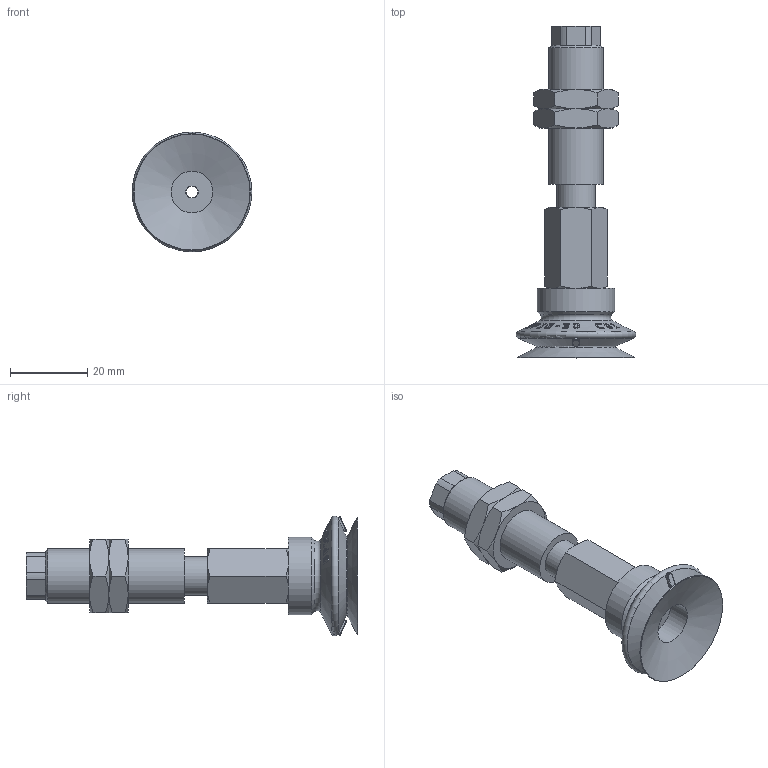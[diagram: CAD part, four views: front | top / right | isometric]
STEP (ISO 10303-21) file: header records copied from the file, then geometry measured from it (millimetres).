
FILE_DESCRIPTION(('STEP AP214'),'1');
FILE_NAME('.stp','2026-01-21T05:02:21',(' '),(' '),'Spatial InterOp 3D',' ',' ');
FILE_SCHEMA(('AUTOMOTIVE_DESIGN { 1 0 10303 214 1 1 1 1 }'));
Length unit declared in the file: millimetre
Products named in the file (7): BNABPJTS-30-6-※; Adapter-30-NAPJ; NUT-NAPJ-30-6-s; NAPJTS-30-6-FBODY; BPJG-30-※; NAPJTS-30-6-MBODY; ADAPTER
Assembly tree (7 placements, depth 2):
  BNABPJTS-30-6-※
    Adapter-30-NAPJ
    NUT-NAPJ-30-6-s  x2
    NAPJTS-30-6-FBODY
    BPJG-30-※
    NAPJTS-30-6-MBODY
    ADAPTER
Bounding box: 30.99 x 86 x 30.99 mm (x, y, z)
Volume: 17350.3 mm3; surface area: 12533 mm2
Topology: 7 solids, 7 shells, 770 faces, 2142 edges, 1407 vertices
Faces by surface type: plane 667, cone 67, cylinder 29, torus 7
Full cylindrical faces by diameter (mm): 3 x3, 4.134 x1, 4.917 x1, 5.8 x1, 6 x1, 10 x2, 10.8 x1, 11 x1, 13.188 x2, 14 x1, 20 x1
Entity records: 30849 total; most frequent: CARTESIAN_POINT 7682, ORIENTED_EDGE 4118, DIRECTION 2587, EDGE_CURVE 2059, VERTEX_POINT 1374, B_SPLINE_CURVE_WITH_KNOTS 1084, LINE 873, VECTOR 873
